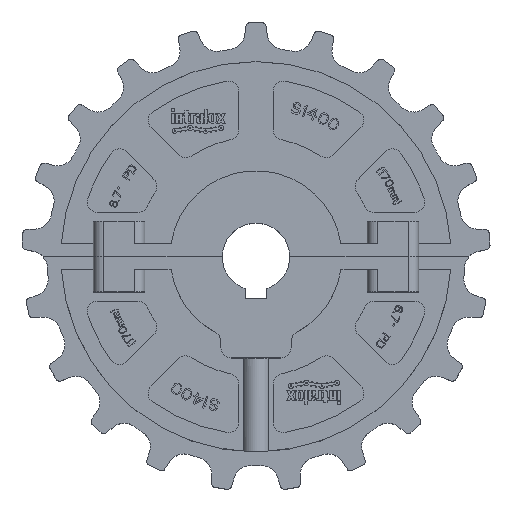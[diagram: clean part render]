
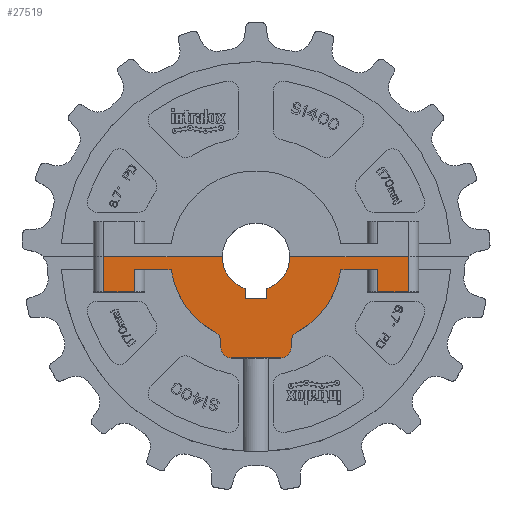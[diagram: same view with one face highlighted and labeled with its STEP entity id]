
A CAD part, top view. The second image highlights one B-rep face of the part: STEP entity #27519.
In plain terms, the highlighted planar face has unit normal (0, 0, 1).
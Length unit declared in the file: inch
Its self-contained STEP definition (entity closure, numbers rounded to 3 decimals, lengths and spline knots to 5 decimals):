
#95=DIRECTION('',(1.,0.,0.));
#96=VECTOR('',#95,0.45);
#97=CARTESIAN_POINT('',(-2.225,-0.515,0.99));
#98=LINE('',#97,#96);
#117=DIRECTION('',(1.,0.,0.));
#118=VECTOR('',#117,0.45);
#119=CARTESIAN_POINT('',(1.775,-0.515,0.99));
#120=LINE('',#119,#118);
#9350=DIRECTION('',(1.,0.,0.));
#9351=VECTOR('',#9350,0.315);
#9352=CARTESIAN_POINT('',(-0.1575,-0.60411,0.99));
#9353=LINE('',#9352,#9351);
#9354=DIRECTION('',(0.,1.,0.));
#9355=VECTOR('',#9354,0.138);
#9356=CARTESIAN_POINT('',(0.1575,-0.60411,0.99));
#9357=LINE('',#9356,#9355);
#9358=CARTESIAN_POINT('',(0.,0.,0.99));
#9359=DIRECTION('',(0.,0.,1.));
#9360=DIRECTION('',(0.32,-0.947,0.));
#9361=AXIS2_PLACEMENT_3D('',#9358,#9359,#9360);
#9363=DIRECTION('',(-1.,0.,0.));
#9364=VECTOR('',#9363,1.733);
#9365=CARTESIAN_POINT('',(2.225,0.,0.99));
#9366=LINE('',#9365,#9364);
#9367=DIRECTION('',(0.,1.,0.));
#9368=VECTOR('',#9367,0.327);
#9369=CARTESIAN_POINT('',(1.775,-0.515,0.99));
#9370=LINE('',#9369,#9368);
#9371=DIRECTION('',(1.,0.,0.));
#9372=VECTOR('',#9371,0.53416);
#9373=CARTESIAN_POINT('',(1.24084,-0.188,0.99));
#9374=LINE('',#9373,#9372);
#9375=CARTESIAN_POINT('',(0.,0.,0.99));
#9376=DIRECTION('',(0.,0.,-1.));
#9377=DIRECTION('',(0.989,-0.15,0.));
#9378=AXIS2_PLACEMENT_3D('',#9375,#9376,#9377);
#9380=CARTESIAN_POINT('',(0.6625,-1.239,0.99));
#9381=DIRECTION('',(0.,0.,1.));
#9382=DIRECTION('',(-0.472,0.882,0.));
#9383=AXIS2_PLACEMENT_3D('',#9380,#9381,#9382);
#9385=DIRECTION('',(0.,-1.,0.));
#9386=VECTOR('',#9385,0.09);
#9387=CARTESIAN_POINT('',(0.5125,-1.239,0.99));
#9388=LINE('',#9387,#9386);
#9389=CARTESIAN_POINT('',(0.3625,-1.329,0.99));
#9390=DIRECTION('',(0.,0.,-1.));
#9391=DIRECTION('',(1.,0.,0.));
#9392=AXIS2_PLACEMENT_3D('',#9389,#9390,#9391);
#9394=DIRECTION('',(-1.,0.,0.));
#9395=VECTOR('',#9394,0.725);
#9396=CARTESIAN_POINT('',(0.3625,-1.479,0.99));
#9397=LINE('',#9396,#9395);
#9398=CARTESIAN_POINT('',(-0.3625,-1.329,0.99));
#9399=DIRECTION('',(0.,0.,-1.));
#9400=DIRECTION('',(0.,-1.,0.));
#9401=AXIS2_PLACEMENT_3D('',#9398,#9399,#9400);
#9403=DIRECTION('',(0.,1.,0.));
#9404=VECTOR('',#9403,0.09);
#9405=CARTESIAN_POINT('',(-0.5125,-1.329,0.99));
#9406=LINE('',#9405,#9404);
#9407=CARTESIAN_POINT('',(-0.6625,-1.239,0.99));
#9408=DIRECTION('',(0.,0.,1.));
#9409=DIRECTION('',(1.,0.,0.));
#9410=AXIS2_PLACEMENT_3D('',#9407,#9408,#9409);
#9412=CARTESIAN_POINT('',(0.,0.,0.99));
#9413=DIRECTION('',(0.,0.,-1.));
#9414=DIRECTION('',(-0.472,-0.882,0.));
#9415=AXIS2_PLACEMENT_3D('',#9412,#9413,#9414);
#9417=DIRECTION('',(1.,0.,0.));
#9418=VECTOR('',#9417,0.53416);
#9419=CARTESIAN_POINT('',(-1.775,-0.188,0.99));
#9420=LINE('',#9419,#9418);
#9421=DIRECTION('',(0.,1.,0.));
#9422=VECTOR('',#9421,0.515);
#9423=CARTESIAN_POINT('',(-2.225,-0.515,0.99));
#9424=LINE('',#9423,#9422);
#9425=DIRECTION('',(-1.,0.,0.));
#9426=VECTOR('',#9425,1.733);
#9427=CARTESIAN_POINT('',(-0.492,0.,0.99));
#9428=LINE('',#9427,#9426);
#9429=CARTESIAN_POINT('',(0.,0.,0.99));
#9430=DIRECTION('',(0.,0.,1.));
#9431=DIRECTION('',(-1.,0.,0.));
#9432=AXIS2_PLACEMENT_3D('',#9429,#9430,#9431);
#9434=DIRECTION('',(0.,-1.,0.));
#9435=VECTOR('',#9434,0.138);
#9436=CARTESIAN_POINT('',(-0.1575,-0.46611,0.99));
#9437=LINE('',#9436,#9435);
#11048=DIRECTION('',(0.,1.,0.));
#11049=VECTOR('',#11048,0.515);
#11050=CARTESIAN_POINT('',(2.225,-0.515,0.99));
#11051=LINE('',#11050,#11049);
#11082=DIRECTION('',(0.,1.,0.));
#11083=VECTOR('',#11082,0.327);
#11084=CARTESIAN_POINT('',(-1.775,-0.515,0.99));
#11085=LINE('',#11084,#11083);
#11227=CARTESIAN_POINT('',(1.775,-0.515,0.99));
#11229=VERTEX_POINT('',#11227);
#11231=CARTESIAN_POINT('',(-2.225,-0.515,0.99));
#11233=VERTEX_POINT('',#11231);
#11324=CARTESIAN_POINT('',(-2.225,0.,0.99));
#11325=VERTEX_POINT('',#11324);
#11338=CARTESIAN_POINT('',(2.225,-0.515,0.99));
#11339=VERTEX_POINT('',#11338);
#11340=CARTESIAN_POINT('',(-1.775,-0.515,0.99));
#11341=VERTEX_POINT('',#11340);
#11344=CARTESIAN_POINT('',(2.225,0.,0.99));
#11345=VERTEX_POINT('',#11344);
#11346=CARTESIAN_POINT('',(-0.5125,-1.239,0.99));
#11347=CARTESIAN_POINT('',(-0.59177,-1.10672,0.99));
#11348=VERTEX_POINT('',#11346);
#11349=VERTEX_POINT('',#11347);
#11350=CARTESIAN_POINT('',(0.59177,-1.10672,0.99));
#11351=CARTESIAN_POINT('',(0.5125,-1.239,0.99));
#11352=VERTEX_POINT('',#11350);
#11353=VERTEX_POINT('',#11351);
#11354=CARTESIAN_POINT('',(0.5125,-1.329,0.99));
#11355=VERTEX_POINT('',#11354);
#11356=CARTESIAN_POINT('',(0.3625,-1.479,0.99));
#11357=VERTEX_POINT('',#11356);
#11358=CARTESIAN_POINT('',(-0.3625,-1.479,0.99));
#11359=VERTEX_POINT('',#11358);
#11360=CARTESIAN_POINT('',(-0.5125,-1.329,0.99));
#11361=VERTEX_POINT('',#11360);
#14311=CARTESIAN_POINT('',(1.775,-0.188,0.99));
#14313=VERTEX_POINT('',#14311);
#14314=CARTESIAN_POINT('',(-1.775,-0.188,0.99));
#14316=VERTEX_POINT('',#14314);
#14318=CARTESIAN_POINT('',(-1.24084,-0.188,0.99));
#14319=VERTEX_POINT('',#14318);
#14320=CARTESIAN_POINT('',(1.24084,-0.188,0.99));
#14321=VERTEX_POINT('',#14320);
#14596=CARTESIAN_POINT('',(-0.1575,-0.60411,0.99));
#14597=CARTESIAN_POINT('',(0.1575,-0.60411,0.99));
#14598=VERTEX_POINT('',#14596);
#14599=VERTEX_POINT('',#14597);
#14600=CARTESIAN_POINT('',(0.1575,-0.46611,0.99));
#14601=VERTEX_POINT('',#14600);
#14602=CARTESIAN_POINT('',(0.492,0.,0.99));
#14603=VERTEX_POINT('',#14602);
#14612=CARTESIAN_POINT('',(-0.492,0.,0.99));
#14613=VERTEX_POINT('',#14612);
#14620=CARTESIAN_POINT('',(-0.1575,-0.46611,0.99));
#14621=VERTEX_POINT('',#14620);
#27471=CARTESIAN_POINT('',(0.,0.,0.99));
#27472=DIRECTION('',(0.,0.,-1.));
#27473=DIRECTION('',(-1.,0.,0.));
#27474=AXIS2_PLACEMENT_3D('',#27471,#27472,#27473);
#27475=PLANE('',#27474);
#27477=ORIENTED_EDGE('',*,*,#27476,.T.);
#27479=ORIENTED_EDGE('',*,*,#27478,.T.);
#27481=ORIENTED_EDGE('',*,*,#27480,.T.);
#27482=ORIENTED_EDGE('',*,*,#14662,.F.);
#27484=ORIENTED_EDGE('',*,*,#27483,.F.);
#27485=ORIENTED_EDGE('',*,*,#14784,.F.);
#27487=ORIENTED_EDGE('',*,*,#27486,.T.);
#27488=ORIENTED_EDGE('',*,*,#27234,.F.);
#27490=ORIENTED_EDGE('',*,*,#27489,.T.);
#27492=ORIENTED_EDGE('',*,*,#27491,.T.);
#27494=ORIENTED_EDGE('',*,*,#27493,.T.);
#27496=ORIENTED_EDGE('',*,*,#27495,.T.);
#27498=ORIENTED_EDGE('',*,*,#27497,.T.);
#27500=ORIENTED_EDGE('',*,*,#27499,.T.);
#27502=ORIENTED_EDGE('',*,*,#27501,.T.);
#27504=ORIENTED_EDGE('',*,*,#27503,.T.);
#27506=ORIENTED_EDGE('',*,*,#27505,.T.);
#27507=ORIENTED_EDGE('',*,*,#27253,.F.);
#27509=ORIENTED_EDGE('',*,*,#27508,.F.);
#27510=ORIENTED_EDGE('',*,*,#14758,.F.);
#27511=ORIENTED_EDGE('',*,*,#27464,.T.);
#27512=ORIENTED_EDGE('',*,*,#14684,.F.);
#27514=ORIENTED_EDGE('',*,*,#27513,.T.);
#27516=ORIENTED_EDGE('',*,*,#27515,.T.);
#27517=EDGE_LOOP('',(#27477,#27479,#27481,#27482,#27484,#27485,#27487,#27488,
#27490,#27492,#27494,#27496,#27498,#27500,#27502,#27504,#27506,#27507,#27509,
#27510,#27511,#27512,#27514,#27516));
#27518=FACE_OUTER_BOUND('',#27517,.F.);
#27519=ADVANCED_FACE('',(#27518),#27475,.F.);
#9362=CIRCLE('',#9361,0.492);
#9379=CIRCLE('',#9378,1.255);
#9384=CIRCLE('',#9383,0.15);
#9393=CIRCLE('',#9392,0.15);
#9402=CIRCLE('',#9401,0.15);
#9411=CIRCLE('',#9410,0.15);
#9416=CIRCLE('',#9415,1.255);
#9433=CIRCLE('',#9432,0.492);
#14662=EDGE_CURVE('',#11345,#14603,#9366,.T.);
#14684=EDGE_CURVE('',#14613,#11325,#9428,.T.);
#14758=EDGE_CURVE('',#11233,#11341,#98,.T.);
#14784=EDGE_CURVE('',#11229,#11339,#120,.T.);
#27234=EDGE_CURVE('',#14321,#14313,#9374,.T.);
#27253=EDGE_CURVE('',#14316,#14319,#9420,.T.);
#27464=EDGE_CURVE('',#11233,#11325,#9424,.T.);
#27476=EDGE_CURVE('',#14598,#14599,#9353,.T.);
#27478=EDGE_CURVE('',#14599,#14601,#9357,.T.);
#27480=EDGE_CURVE('',#14601,#14603,#9362,.T.);
#27483=EDGE_CURVE('',#11339,#11345,#11051,.T.);
#27486=EDGE_CURVE('',#11229,#14313,#9370,.T.);
#27489=EDGE_CURVE('',#14321,#11352,#9379,.T.);
#27491=EDGE_CURVE('',#11352,#11353,#9384,.T.);
#27493=EDGE_CURVE('',#11353,#11355,#9388,.T.);
#27495=EDGE_CURVE('',#11355,#11357,#9393,.T.);
#27497=EDGE_CURVE('',#11357,#11359,#9397,.T.);
#27499=EDGE_CURVE('',#11359,#11361,#9402,.T.);
#27501=EDGE_CURVE('',#11361,#11348,#9406,.T.);
#27503=EDGE_CURVE('',#11348,#11349,#9411,.T.);
#27505=EDGE_CURVE('',#11349,#14319,#9416,.T.);
#27508=EDGE_CURVE('',#11341,#14316,#11085,.T.);
#27513=EDGE_CURVE('',#14613,#14621,#9433,.T.);
#27515=EDGE_CURVE('',#14621,#14598,#9437,.T.);
